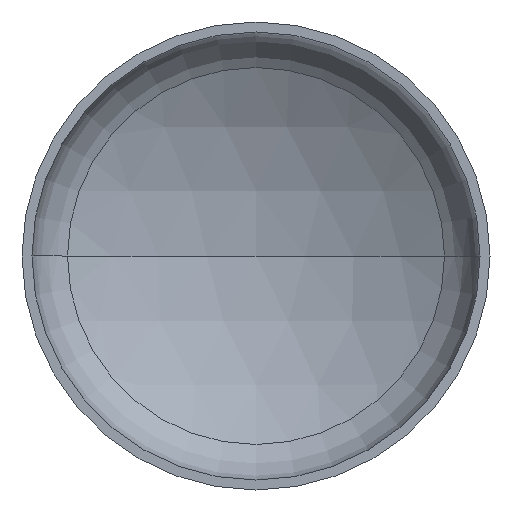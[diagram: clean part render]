
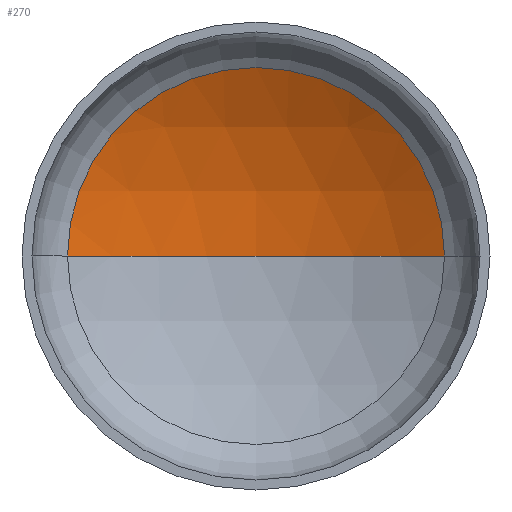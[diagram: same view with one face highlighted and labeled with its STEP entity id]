
A CAD part, front view. The second image highlights one B-rep face of the part: STEP entity #270.
In plain terms, the highlighted spherical face has radius 2560 mm.
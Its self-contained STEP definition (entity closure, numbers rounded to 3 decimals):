
#9 = AXIS2_PLACEMENT_3D ( 'NONE', #189, #81, #391 ) ;
#17 = CARTESIAN_POINT ( 'NONE',  ( 0., 891.387, 0. ) ) ;
#24 = AXIS2_PLACEMENT_3D ( 'NONE', #201, #202, #87 ) ;
#27 = AXIS2_PLACEMENT_3D ( 'NONE', #225, #222, #224 ) ;
#29 = ORIENTED_EDGE ( 'NONE', *, *, #64, .T. ) ;
#30 = AXIS2_PLACEMENT_3D ( 'NONE', #203, #205, #312 ) ;
#40 = ORIENTED_EDGE ( 'NONE', *, *, #67, .T. ) ;
#44 = EDGE_LOOP ( 'NONE', ( #54, #40, #29 ) ) ;
#54 = ORIENTED_EDGE ( 'NONE', *, *, #72, .F. ) ;
#64 = EDGE_CURVE ( 'NONE', #151, #246, #284, .T. ) ;
#67 = EDGE_CURVE ( 'NONE', #112, #151, #221, .T. ) ;
#71 = CARTESIAN_POINT ( 'NONE',  ( -1288.657, 543.391, 0. ) ) ;
#72 = EDGE_CURVE ( 'NONE', #112, #246, #405, .T. ) ;
#81 = DIRECTION ( 'NONE',  ( 0., 0., -1. ) ) ;
#87 = DIRECTION ( 'NONE',  ( 1., 0., 0. ) ) ;
#112 = VERTEX_POINT ( 'NONE', #17 ) ;
#151 = VERTEX_POINT ( 'NONE', #194 ) ;
#189 = CARTESIAN_POINT ( 'NONE',  ( 0., -1668.613, 0. ) ) ;
#194 = CARTESIAN_POINT ( 'NONE',  ( 1288.657, 543.391, 0. ) ) ;
#201 = CARTESIAN_POINT ( 'NONE',  ( 0., -1668.613, 0. ) ) ;
#202 = DIRECTION ( 'NONE',  ( 0., 0., 1. ) ) ;
#203 = CARTESIAN_POINT ( 'NONE',  ( 0., 543.391, 0. ) ) ;
#205 = DIRECTION ( 'NONE',  ( 0., -1., 0. ) ) ;
#221 = CIRCLE ( 'NONE', #27, 2560. ) ;
#222 = DIRECTION ( 'NONE',  ( 0., 0., -1. ) ) ;
#224 = DIRECTION ( 'NONE',  ( -1., 0., 0. ) ) ;
#225 = CARTESIAN_POINT ( 'NONE',  ( 0., -1668.613, 0. ) ) ;
#246 = VERTEX_POINT ( 'NONE', #71 ) ;
#270 = ADVANCED_FACE ( 'NONE', ( #318 ), #327, .F. ) ;
#284 = CIRCLE ( 'NONE', #30, 1288.657 ) ;
#312 = DIRECTION ( 'NONE',  ( 1., 0., 0. ) ) ;
#318 = FACE_OUTER_BOUND ( 'NONE', #44, .T. ) ;
#327 = SPHERICAL_SURFACE ( 'NONE', #9, 2560. ) ;
#391 = DIRECTION ( 'NONE',  ( -1., 0., 0. ) ) ;
#405 = CIRCLE ( 'NONE', #24, 2560. ) ;
